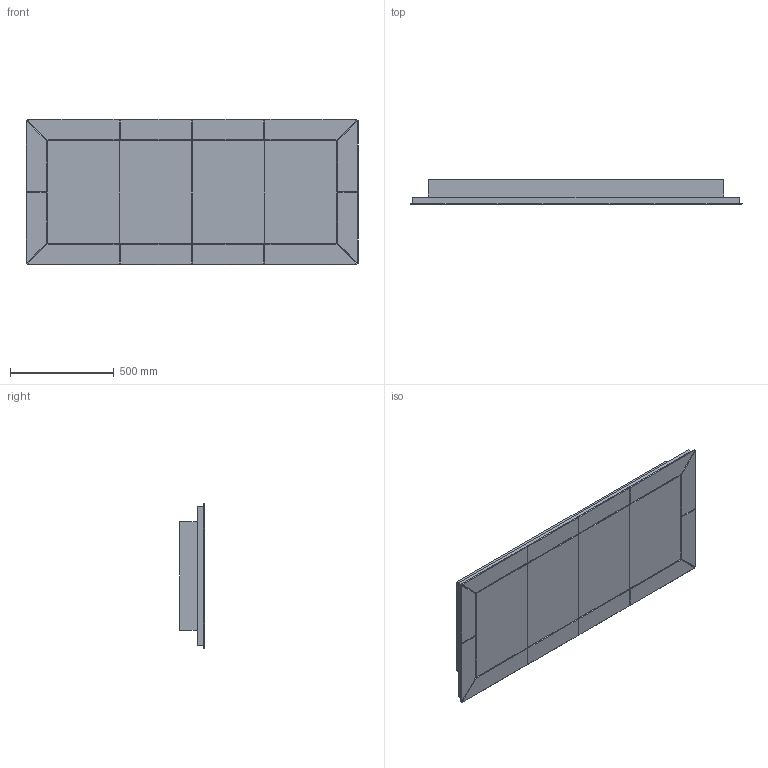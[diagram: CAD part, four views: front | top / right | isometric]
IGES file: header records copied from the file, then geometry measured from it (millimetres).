
Global section: file name: \\Archi-NAS\Comune\X GIOVANNI\SPECCHI\MIRR GLASS\MIRR GLASS_wall.igs; native system: Rhinoceros ( Feb 23 2021 ); preprocessor: Trout Lake IGES 012 Feb 23 2021; date: 230608.075730; units: millimetre
Bounding box: 1600 x 120 x 700 mm (x, y, z)
Surface area: 6277834.4 mm2 (no closed solid volume)
Topology: 0 solids, 0 shells, 447 faces, 1848 edges, 1848 vertices
Faces by surface type: bspline 447
